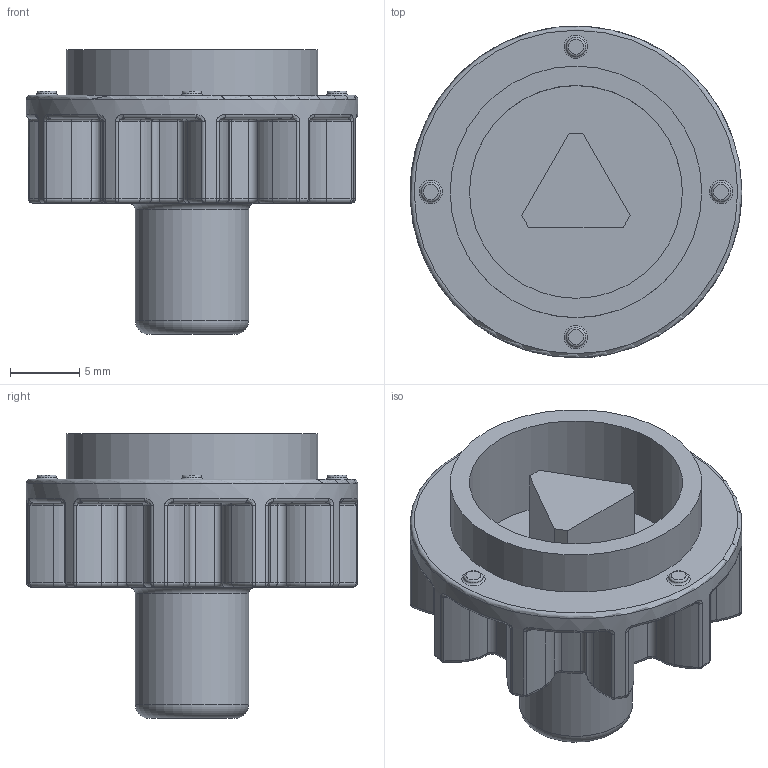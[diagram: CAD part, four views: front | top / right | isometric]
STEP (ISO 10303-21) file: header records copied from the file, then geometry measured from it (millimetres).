
FILE_DESCRIPTION (( 'STEP AP203' ), '1' );
FILE_NAME ('R5NCE213.STEP', '2024-11-25T06:54:42', ( '' ), ( '' ), 'SwSTEP 2.0', 'SolidWorks 2022', '' );
FILE_SCHEMA (( 'CONFIG_CONTROL_DESIGN' ));
Length unit declared in the file: millimetre
Products named in the file (2): RB.2727.00.00.0; R5NCE213
Assembly tree (1 placements, depth 2):
  R5NCE213
    RB.2727.00.00.0
Bounding box: 23.99 x 23.99 x 20.6 mm (x, y, z)
Volume: 2755.4 mm3; surface area: 2713 mm2
Topology: 1 solids, 1 shells, 339 faces, 769 edges, 434 vertices
Faces by surface type: torus 174, cylinder 96, plane 28, bspline 20, sphere 20, cone 1
Full cylindrical faces by diameter (mm): 3 x1, 4.8 x1, 8.2 x1, 15.4 x1, 18.2 x1, 24 x1
Entity records: 9988 total; most frequent: CARTESIAN_POINT 2153, DIRECTION 1904, ORIENTED_EDGE 1456, AXIS2_PLACEMENT_3D 893, EDGE_CURVE 728, CIRCLE 570, VERTEX_POINT 422, EDGE_LOOP 370
